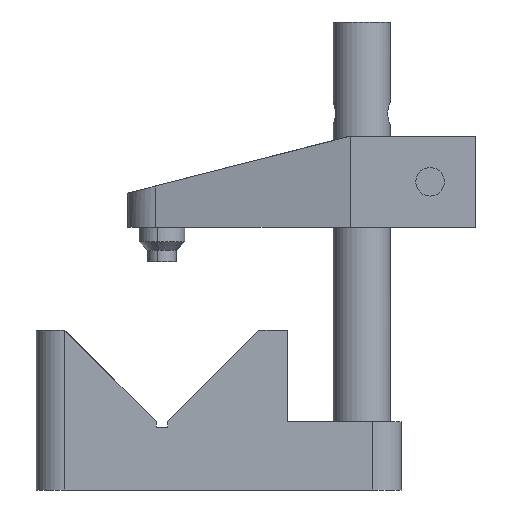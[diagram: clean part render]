
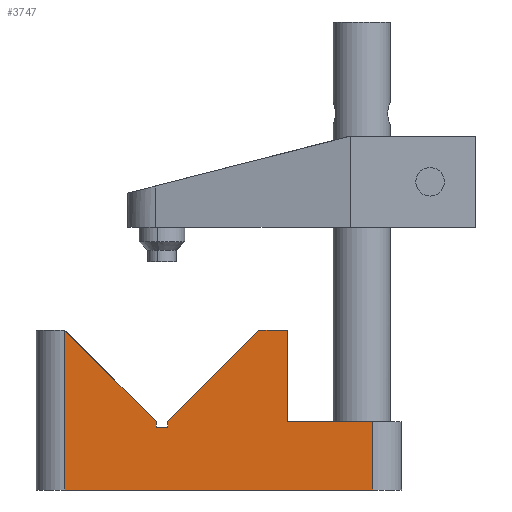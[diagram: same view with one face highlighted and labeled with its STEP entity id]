
A CAD part, left-side view. The second image highlights one B-rep face of the part: STEP entity #3747.
In plain terms, the highlighted planar face has unit normal (-1, 0, 0).
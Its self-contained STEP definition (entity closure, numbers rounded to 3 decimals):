
#1 = LINE ( 'NONE', #1085, #2966 ) ;
#66 = CARTESIAN_POINT ( 'NONE',  ( -10., -6., 14. ) ) ;
#75 = CARTESIAN_POINT ( 'NONE',  ( -10., -6., 6. ) ) ;
#93 = LINE ( 'NONE', #95, #2906 ) ;
#95 = CARTESIAN_POINT ( 'NONE',  ( -10., 5.5, 6. ) ) ;
#105 = FACE_OUTER_BOUND ( 'NONE', #2361, .T. ) ;
#107 = EDGE_CURVE ( 'NONE', #2082, #3584, #93, .T. ) ;
#165 = DIRECTION ( 'NONE',  ( 0., -1., 0. ) ) ;
#255 = CARTESIAN_POINT ( 'NONE',  ( -10., 4.5, 5.5 ) ) ;
#295 = VECTOR ( 'NONE', #2962, 1000. ) ;
#312 = CARTESIAN_POINT ( 'NONE',  ( -10., 4.5, 6. ) ) ;
#374 = CARTESIAN_POINT ( 'NONE',  ( -10., 4.5, 5.5 ) ) ;
#385 = DIRECTION ( 'NONE',  ( 0., 0., -1. ) ) ;
#391 = VERTEX_POINT ( 'NONE', #842 ) ;
#501 = PLANE ( 'NONE',  #2152 ) ;
#508 = LINE ( 'NONE', #1931, #2454 ) ;
#573 = CARTESIAN_POINT ( 'NONE',  ( -10., 5.5, 5.5 ) ) ;
#634 = CARTESIAN_POINT ( 'NONE',  ( -10., 13.5, 14. ) ) ;
#693 = CARTESIAN_POINT ( 'NONE',  ( -10., 13.5, 0. ) ) ;
#699 = ORIENTED_EDGE ( 'NONE', *, *, #884, .T. ) ;
#784 = LINE ( 'NONE', #75, #1009 ) ;
#842 = CARTESIAN_POINT ( 'NONE',  ( -10., 5.5, 5.5 ) ) ;
#845 = VERTEX_POINT ( 'NONE', #1677 ) ;
#864 = ORIENTED_EDGE ( 'NONE', *, *, #2533, .T. ) ;
#884 = EDGE_CURVE ( 'NONE', #2275, #391, #2173, .T. ) ;
#1002 = ORIENTED_EDGE ( 'NONE', *, *, #2452, .T. ) ;
#1009 = VECTOR ( 'NONE', #1269, 1000. ) ;
#1017 = VECTOR ( 'NONE', #1455, 1000. ) ;
#1085 = CARTESIAN_POINT ( 'NONE',  ( -10., -13.5, 14. ) ) ;
#1160 = LINE ( 'NONE', #3623, #3554 ) ;
#1269 = DIRECTION ( 'NONE',  ( 0., 1., 0. ) ) ;
#1365 = ORIENTED_EDGE ( 'NONE', *, *, #2834, .T. ) ;
#1369 = EDGE_CURVE ( 'NONE', #3577, #3619, #508, .T. ) ;
#1455 = DIRECTION ( 'NONE',  ( 0., 0., 1. ) ) ;
#1611 = VECTOR ( 'NONE', #3117, 1000. ) ;
#1660 = DIRECTION ( 'NONE',  ( 0., 0., -1. ) ) ;
#1677 = CARTESIAN_POINT ( 'NONE',  ( -10., -13.5, 0. ) ) ;
#1706 = VECTOR ( 'NONE', #2524, 1000. ) ;
#1786 = EDGE_CURVE ( 'NONE', #845, #3434, #1, .T. ) ;
#1809 = CARTESIAN_POINT ( 'NONE',  ( -10., -6., 6. ) ) ;
#1891 = DIRECTION ( 'NONE',  ( 0., 0., 1. ) ) ;
#1909 = VECTOR ( 'NONE', #2576, 1000. ) ;
#1931 = CARTESIAN_POINT ( 'NONE',  ( -10., -16., 14. ) ) ;
#1953 = EDGE_CURVE ( 'NONE', #3032, #3619, #1160, .T. ) ;
#1956 = CARTESIAN_POINT ( 'NONE',  ( -10., -16., 14. ) ) ;
#1983 = CARTESIAN_POINT ( 'NONE',  ( -10., 4.5, 6. ) ) ;
#2082 = VERTEX_POINT ( 'NONE', #2480 ) ;
#2120 = EDGE_CURVE ( 'NONE', #391, #2082, #2688, .T. ) ;
#2152 = AXIS2_PLACEMENT_3D ( 'NONE', #1956, #3646, #1660 ) ;
#2173 = LINE ( 'NONE', #2252, #1909 ) ;
#2252 = CARTESIAN_POINT ( 'NONE',  ( -10., 5.5, 5.5 ) ) ;
#2264 = DIRECTION ( 'NONE',  ( 0., 0., 1. ) ) ;
#2275 = VERTEX_POINT ( 'NONE', #255 ) ;
#2361 = EDGE_LOOP ( 'NONE', ( #864, #3142, #3714, #1365, #1002, #699, #2436, #2557, #3696, #3511, #3711 ) ) ;
#2365 = CARTESIAN_POINT ( 'NONE',  ( -10., -3.5, 14. ) ) ;
#2366 = LINE ( 'NONE', #1983, #1611 ) ;
#2381 = LINE ( 'NONE', #634, #295 ) ;
#2394 = DIRECTION ( 'NONE',  ( 0., 0.707, 0.707 ) ) ;
#2436 = ORIENTED_EDGE ( 'NONE', *, *, #2120, .T. ) ;
#2452 = EDGE_CURVE ( 'NONE', #2985, #2275, #3503, .T. ) ;
#2454 = VECTOR ( 'NONE', #165, 1000. ) ;
#2480 = CARTESIAN_POINT ( 'NONE',  ( -10., 5.5, 6. ) ) ;
#2510 = VERTEX_POINT ( 'NONE', #693 ) ;
#2524 = DIRECTION ( 'NONE',  ( 0., -1., 0. ) ) ;
#2533 = EDGE_CURVE ( 'NONE', #3434, #3032, #784, .T. ) ;
#2557 = ORIENTED_EDGE ( 'NONE', *, *, #107, .T. ) ;
#2576 = DIRECTION ( 'NONE',  ( 0., 1., 0. ) ) ;
#2688 = LINE ( 'NONE', #573, #1017 ) ;
#2732 = VECTOR ( 'NONE', #385, 1000. ) ;
#2816 = EDGE_CURVE ( 'NONE', #2510, #845, #3217, .T. ) ;
#2834 = EDGE_CURVE ( 'NONE', #3577, #2985, #2366, .T. ) ;
#2906 = VECTOR ( 'NONE', #2394, 1000. ) ;
#2962 = DIRECTION ( 'NONE',  ( 0., 0., -1. ) ) ;
#2966 = VECTOR ( 'NONE', #2264, 1000. ) ;
#2985 = VERTEX_POINT ( 'NONE', #312 ) ;
#3032 = VERTEX_POINT ( 'NONE', #1809 ) ;
#3111 = CARTESIAN_POINT ( 'NONE',  ( -10., -13.5, 6. ) ) ;
#3117 = DIRECTION ( 'NONE',  ( 0., 0.707, -0.707 ) ) ;
#3142 = ORIENTED_EDGE ( 'NONE', *, *, #1953, .T. ) ;
#3217 = LINE ( 'NONE', #3706, #1706 ) ;
#3434 = VERTEX_POINT ( 'NONE', #3111 ) ;
#3503 = LINE ( 'NONE', #374, #2732 ) ;
#3511 = ORIENTED_EDGE ( 'NONE', *, *, #2816, .T. ) ;
#3544 = CARTESIAN_POINT ( 'NONE',  ( -10., 13.5, 14. ) ) ;
#3554 = VECTOR ( 'NONE', #1891, 1000. ) ;
#3577 = VERTEX_POINT ( 'NONE', #2365 ) ;
#3584 = VERTEX_POINT ( 'NONE', #3544 ) ;
#3589 = EDGE_CURVE ( 'NONE', #3584, #2510, #2381, .T. ) ;
#3619 = VERTEX_POINT ( 'NONE', #66 ) ;
#3623 = CARTESIAN_POINT ( 'NONE',  ( -10., -6., -22.361 ) ) ;
#3646 = DIRECTION ( 'NONE',  ( 1., 0., 0. ) ) ;
#3696 = ORIENTED_EDGE ( 'NONE', *, *, #3589, .T. ) ;
#3706 = CARTESIAN_POINT ( 'NONE',  ( -10., -16., 0. ) ) ;
#3711 = ORIENTED_EDGE ( 'NONE', *, *, #1786, .T. ) ;
#3714 = ORIENTED_EDGE ( 'NONE', *, *, #1369, .F. ) ;
#3747 = ADVANCED_FACE ( 'NONE', ( #105 ), #501, .F. ) ;
